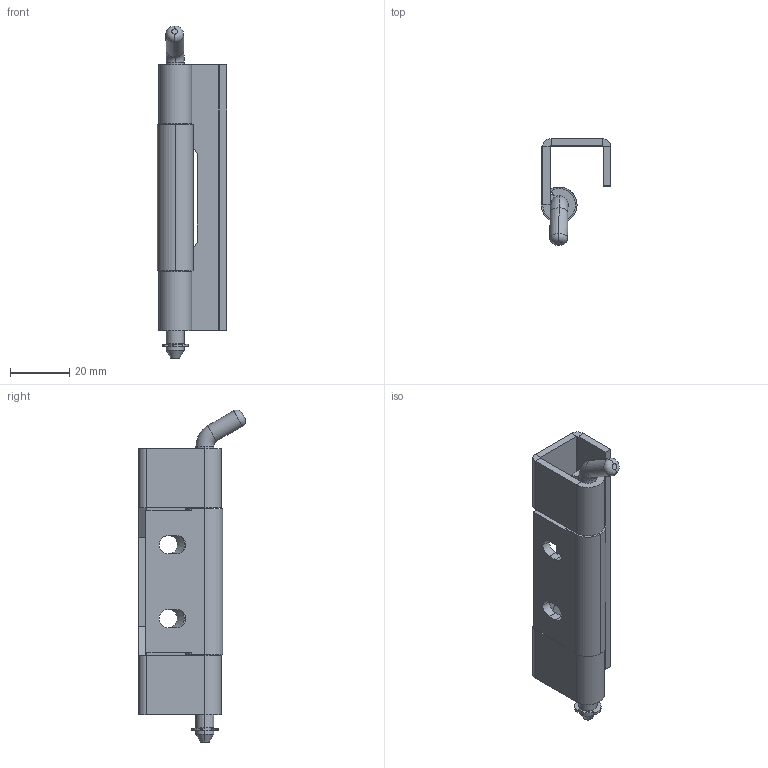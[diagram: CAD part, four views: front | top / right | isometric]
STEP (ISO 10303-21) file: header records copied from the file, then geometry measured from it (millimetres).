
FILE_DESCRIPTION (( 'STEP AP214' ), '1' );
FILE_NAME ('3.ST12.001.STEP', '2010-04-20T19:55:08', ( 'Techniczny' ), ( 'RST ROZTOCZE' ), 'SwSTEP 2.0', 'SolidWorks 2010', '' );
FILE_SCHEMA (( 'AUTOMOTIVE_DESIGN' ));
Length unit declared in the file: millimetre
Products named in the file (5): 3B.ST12.01.00.00_Default; Zabezpieczenie; 3B.ST12.03.00.00_Default; 3B.ST12.02.00.00_Default; 3.ST12.001
Assembly tree (4 placements, depth 2):
  3.ST12.001
    3B.ST12.01.00.00_Default
    3B.ST12.03.00.00_Default
    Zabezpieczenie
    3B.ST12.02.00.00_Default
Bounding box: 23.5 x 36.21 x 112.37 mm (x, y, z)
Volume: 19456.3 mm3; surface area: 16563 mm2
Topology: 4 solids, 4 shells, 138 faces, 338 edges, 210 vertices
Faces by surface type: plane 69, cylinder 39, bspline 20, cone 6, torus 4
Entity records: 5818 total; most frequent: CARTESIAN_POINT 2509, ORIENTED_EDGE 676, DIRECTION 624, EDGE_CURVE 338, VERTEX_POINT 210, AXIS2_PLACEMENT_3D 209, LINE 206, VECTOR 206
